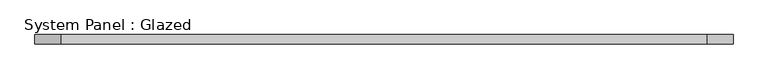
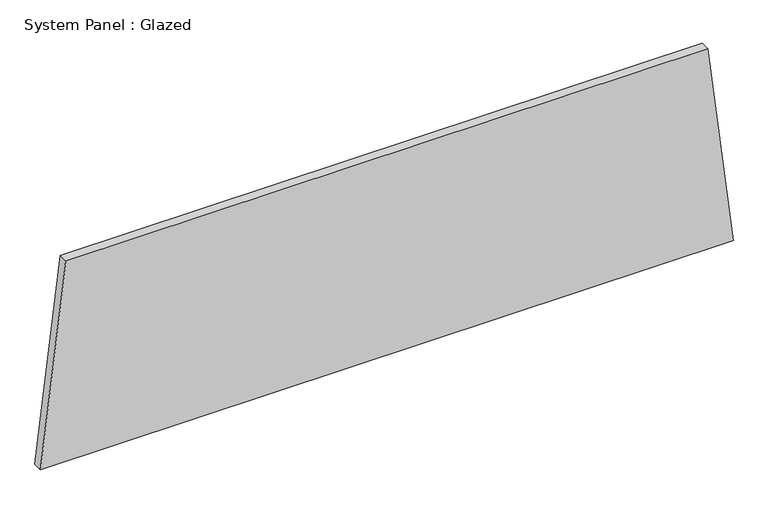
"""IFC4 building model written with IfcOpenShell, lengths in millimetres: plate geometry, System Panel : Glazed."""

from ifc_helpers import new_model, si_unit, frame, origin, place, context, project, spatial, polyline, outline, extrude, source, transform, mapped, element, save


def system_panel_glazed_f7be4813(model_context):
    return source(origin(), model_context, "Body", "SweptSolid", [
        extrude(outline(polyline([(0.0, -947.3014061), (0.0, 947.3014061), (579.8510312, 877.6651275), (579.8510312, -877.6651275), (0.0, -947.3014061)])), frame((0.0, 19.05, 0.0), z_axis=(0.0, 1.0, 0.0), x_axis=(0.0, 0.0, 1.0)), (0.0, 0.0, 1.0), 25.4),
    ])


if __name__ == "__main__":
    model = new_model("IFC4")
    model_context = context("Model", 3, world=origin())
    ifc_project = project(units=[si_unit("LENGTHUNIT", "METRE", prefix="MILLI")], contexts=[model_context])
    site = spatial("IfcSite", under=ifc_project)
    building = spatial("IfcBuilding", under=site)
    placement = place(None, origin())
    system_panel_glazed_shape = system_panel_glazed_f7be4813(model_context)
    element("IfcPlate", 1, ObjectType="System Panel : Glazed", at=placement, inside=building, context=model_context, shape_type="MappedRepresentation", body=[
        mapped(system_panel_glazed_shape, transform((0.0, 0.0, 0.0), x_axis=(1.0, 0.0, 0.0), y_axis=(0.0, 1.0, 0.0), z_axis=(0.0, 0.0, 1.0))),
    ])
    save(model, "model.ifc")
